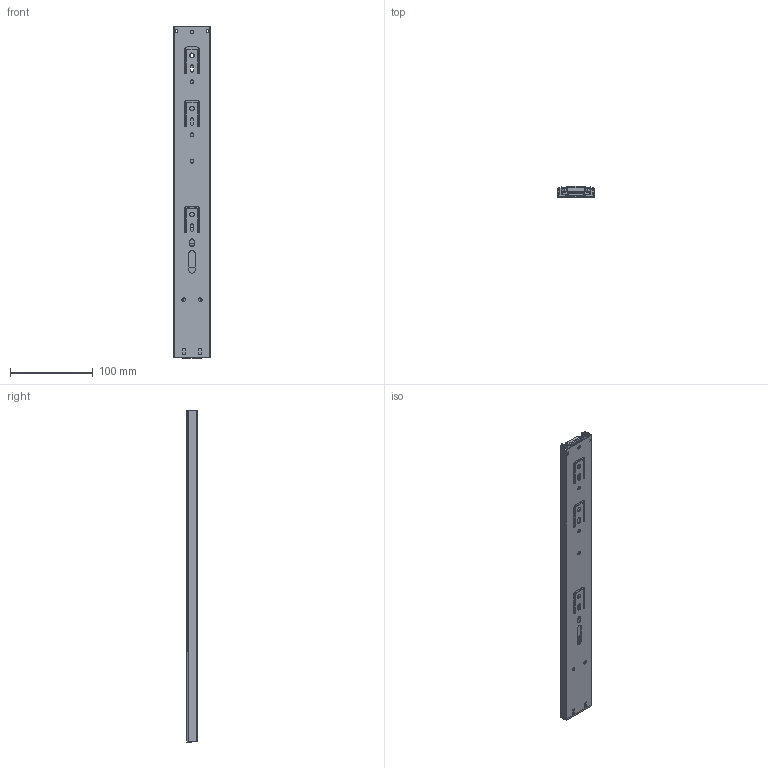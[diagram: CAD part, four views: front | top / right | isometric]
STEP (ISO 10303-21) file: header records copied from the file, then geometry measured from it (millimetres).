
FILE_DESCRIPTION(/* description */ (''),/* implementation_level */ '2;1');
FILE_NAME(/* name */ 'C:\Users\dmitruk\Documents\WORK\НАПРАВЛЯЮЩИЕ\Шариковые\Доводчик\h45 L-400 с доводчиком AKS.stp',/* time_stamp */ '2022-04-19T17:46:20+03:00',/* author */ ('dmitruk'),/* organization */ ('AKS'),/* preprocessor_version */ 'ST-DEVELOPER v16.5',/* originating_system */ 'Autodesk Inventor 2017',/* authorisation */ '');
FILE_SCHEMA (('AUTOMOTIVE_DESIGN { 1 0 10303 214 3 1 1 }'));
Length unit declared in the file: millimetre
Products named in the file (6): h45 L-400 с \X2\0434043E0432043E043404470438
043A043E043C\X0\ AKS; h45 L-400 AKS_11довод; h45 L-400 AKS_12довод; h45 L-350_13; h45 L-400 AKS_2довод; Доводчик
Assembly tree (5 placements, depth 2):
  h45 L-400 с \X2\0434043E0432043E043404470438
043A043E043C\X0\ AKS
    h45 L-400 AKS_11довод
    h45 L-400 AKS_12довод
    h45 L-350_13
    h45 L-400 AKS_2довод
    Доводчик
Bounding box: 44 x 13 x 400.73 mm (x, y, z)
Volume: 74293.6 mm3; surface area: 127078.3 mm2
Topology: 5 solids, 5 shells, 659 faces, 1922 edges, 1253 vertices
Faces by surface type: plane 385, cylinder 234, sphere 40
Full cylindrical faces by diameter (mm): 4.5 x10, 5.5 x3
Entity records: 22325 total; most frequent: CARTESIAN_POINT 4046, ORIENTED_EDGE 3814, DIRECTION 3792, EDGE_CURVE 1907, LINE 1318, VECTOR 1318, VERTEX_POINT 1251, AXIS2_PLACEMENT_3D 1237
